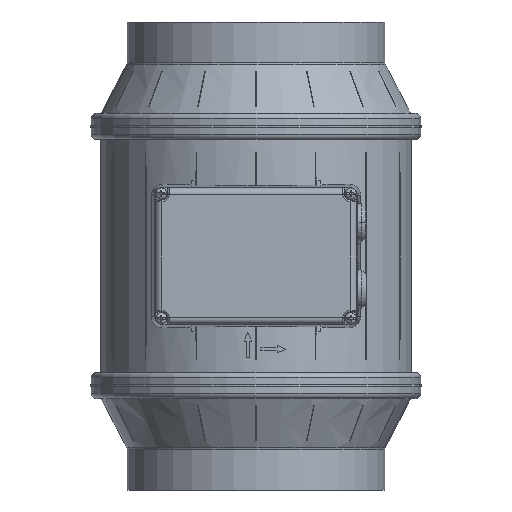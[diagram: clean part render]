
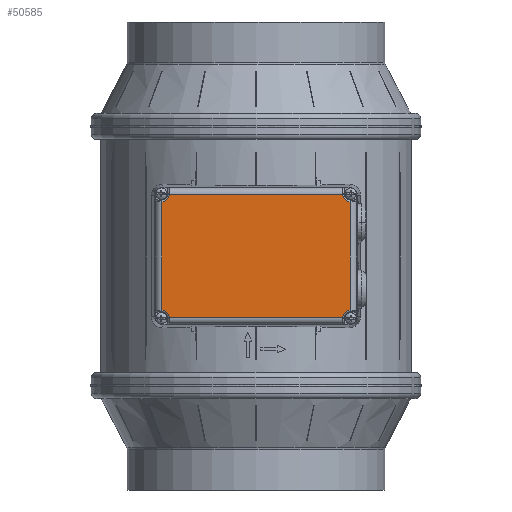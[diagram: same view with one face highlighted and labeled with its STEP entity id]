
A CAD part, front view. The second image highlights one B-rep face of the part: STEP entity #50585.
In plain terms, the highlighted planar face has unit normal (0, -1, 0).
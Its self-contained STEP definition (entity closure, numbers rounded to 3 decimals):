
#14205 = AXIS2_PLACEMENT_3D ( 'NONE', #27912, #27917, #27918 ) ;
#15743 = EDGE_LOOP ( 'NONE', ( #56128, #56129, #56130, #56131, #56132, #56133, #56134, #56135 ) ) ;
#26287 = FACE_OUTER_BOUND ( 'NONE', #15743, .T. ) ;
#27912 = CARTESIAN_POINT ( 'NONE',  ( -57.5, -130.55, 169.514 ) ) ;
#27913 = PLANE ( 'NONE',  #14205 ) ;
#27917 = DIRECTION ( 'NONE',  ( 0., 1., 0. ) ) ;
#27918 = DIRECTION ( 'NONE',  ( 0., 0., 1. ) ) ;
#29403 = AXIS2_PLACEMENT_3D ( 'NONE', #45627, #45629, #45631 ) ;
#29410 = AXIS2_PLACEMENT_3D ( 'NONE', #45694, #45696, #45698 ) ;
#29414 = AXIS2_PLACEMENT_3D ( 'NONE', #45727, #45729, #45731 ) ;
#29415 = AXIS2_PLACEMENT_3D ( 'NONE', #45738, #45740, #45742 ) ;
#31150 = CARTESIAN_POINT ( 'NONE',  ( -53.516, -130.55, 93.91 ) ) ;
#34086 = CARTESIAN_POINT ( 'NONE',  ( 58.103, -130.55, 165.529 ) ) ;
#34092 = CARTESIAN_POINT ( 'NONE',  ( 53.516, -130.55, 170.117 ) ) ;
#34097 = CARTESIAN_POINT ( 'NONE',  ( 53.516, -130.55, 93.91 ) ) ;
#34098 = CARTESIAN_POINT ( 'NONE',  ( 58.103, -130.55, 98.498 ) ) ;
#34099 = CARTESIAN_POINT ( 'NONE',  ( -53.516, -130.55, 170.117 ) ) ;
#34103 = CARTESIAN_POINT ( 'NONE',  ( -58.103, -130.55, 98.498 ) ) ;
#34805 = CARTESIAN_POINT ( 'NONE',  ( -58.103, -130.55, 165.529 ) ) ;
#36939 = CIRCLE ( 'NONE', #29403, 5. ) ;
#36940 = CIRCLE ( 'NONE', #29410, 5. ) ;
#36944 = CIRCLE ( 'NONE', #29414, 5. ) ;
#36945 = LINE ( 'NONE', #45714, #36947 ) ;
#36946 = CIRCLE ( 'NONE', #29415, 5. ) ;
#36947 = VECTOR ( 'NONE', #45716, 1000. ) ;
#36948 = LINE ( 'NONE', #45723, #36950 ) ;
#36949 = LINE ( 'NONE', #45744, #36952 ) ;
#36950 = VECTOR ( 'NONE', #45725, 1000. ) ;
#36951 = LINE ( 'NONE', #45749, #36954 ) ;
#36952 = VECTOR ( 'NONE', #45747, 1000. ) ;
#36954 = VECTOR ( 'NONE', #45752, 1000. ) ;
#45627 = CARTESIAN_POINT ( 'NONE',  ( 58.5, -130.55, 170.514 ) ) ;
#45629 = DIRECTION ( 'NONE',  ( 0., 1., 0. ) ) ;
#45631 = DIRECTION ( 'NONE',  ( 0., 0., 1. ) ) ;
#45694 = CARTESIAN_POINT ( 'NONE',  ( 58.5, -130.55, 93.514 ) ) ;
#45696 = DIRECTION ( 'NONE',  ( 0., 1., 0. ) ) ;
#45698 = DIRECTION ( 'NONE',  ( 0., 0., 1. ) ) ;
#45714 = CARTESIAN_POINT ( 'NONE',  ( -57.5, -130.55, 170.117 ) ) ;
#45716 = DIRECTION ( 'NONE',  ( -1., 0., 0. ) ) ;
#45723 = CARTESIAN_POINT ( 'NONE',  ( -58.103, -130.55, 169.514 ) ) ;
#45725 = DIRECTION ( 'NONE',  ( 0., 0., -1. ) ) ;
#45727 = CARTESIAN_POINT ( 'NONE',  ( -58.5, -130.55, 93.514 ) ) ;
#45729 = DIRECTION ( 'NONE',  ( 0., 1., 0. ) ) ;
#45731 = DIRECTION ( 'NONE',  ( 0., 0., 1. ) ) ;
#45738 = CARTESIAN_POINT ( 'NONE',  ( -58.5, -130.55, 170.514 ) ) ;
#45740 = DIRECTION ( 'NONE',  ( 0., 1., 0. ) ) ;
#45742 = DIRECTION ( 'NONE',  ( 0., 0., 1. ) ) ;
#45744 = CARTESIAN_POINT ( 'NONE',  ( -57.5, -130.55, 93.91 ) ) ;
#45747 = DIRECTION ( 'NONE',  ( 1., 0., 0. ) ) ;
#45749 = CARTESIAN_POINT ( 'NONE',  ( 58.103, -130.55, 169.514 ) ) ;
#45752 = DIRECTION ( 'NONE',  ( 0., 0., 1. ) ) ;
#50585 = ADVANCED_FACE ( 'NONE', ( #26287 ), #27913, .F. ) ;
#53758 = VERTEX_POINT ( 'NONE', #34086 ) ;
#53764 = VERTEX_POINT ( 'NONE', #34092 ) ;
#53769 = VERTEX_POINT ( 'NONE', #34097 ) ;
#53770 = VERTEX_POINT ( 'NONE', #34098 ) ;
#53771 = VERTEX_POINT ( 'NONE', #34099 ) ;
#53775 = VERTEX_POINT ( 'NONE', #34103 ) ;
#53776 = VERTEX_POINT ( 'NONE', #31150 ) ;
#53780 = VERTEX_POINT ( 'NONE', #34805 ) ;
#56128 = ORIENTED_EDGE ( 'NONE', *, *, #56972, .T. ) ;
#56129 = ORIENTED_EDGE ( 'NONE', *, *, #56973, .T. ) ;
#56130 = ORIENTED_EDGE ( 'NONE', *, *, #56974, .T. ) ;
#56131 = ORIENTED_EDGE ( 'NONE', *, *, #56971, .T. ) ;
#56132 = ORIENTED_EDGE ( 'NONE', *, *, #56975, .T. ) ;
#56133 = ORIENTED_EDGE ( 'NONE', *, *, #56967, .T. ) ;
#56134 = ORIENTED_EDGE ( 'NONE', *, *, #56976, .T. ) ;
#56135 = ORIENTED_EDGE ( 'NONE', *, *, #56958, .T. ) ;
#56958 = EDGE_CURVE ( 'NONE', #53758, #53764, #36939, .T. ) ;
#56967 = EDGE_CURVE ( 'NONE', #53769, #53770, #36940, .T. ) ;
#56971 = EDGE_CURVE ( 'NONE', #53775, #53776, #36944, .T. ) ;
#56972 = EDGE_CURVE ( 'NONE', #53764, #53771, #36945, .T. ) ;
#56973 = EDGE_CURVE ( 'NONE', #53771, #53780, #36946, .T. ) ;
#56974 = EDGE_CURVE ( 'NONE', #53780, #53775, #36948, .T. ) ;
#56975 = EDGE_CURVE ( 'NONE', #53776, #53769, #36949, .T. ) ;
#56976 = EDGE_CURVE ( 'NONE', #53770, #53758, #36951, .T. ) ;
